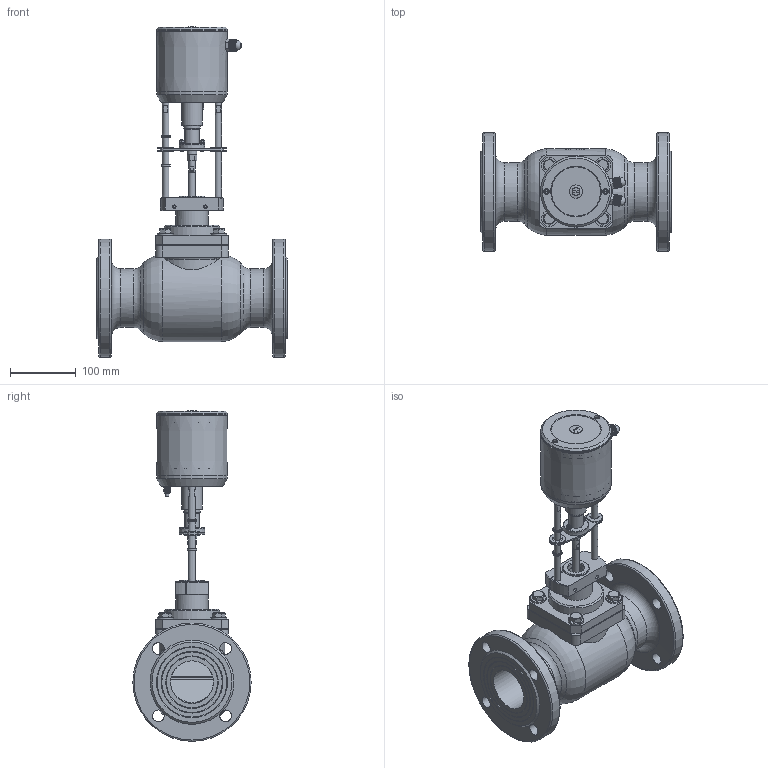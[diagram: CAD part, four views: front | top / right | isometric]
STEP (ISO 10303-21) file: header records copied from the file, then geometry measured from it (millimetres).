
FILE_DESCRIPTION(('STEP AP203'), '1');
FILE_NAME('ÊÏÑ-2 Äó 65 ñ ÝÏ-100-01', '', ('UNSPECIFIED'), ('UNSPECIFIED'), 'ASCON STEP Converter 1.3', 'ASCON Math Kernel', '');
FILE_SCHEMA(('CONFIG_CONTROL_DESIGN'));
Length unit declared in the file: millimetre
Bounding box: 290 x 180 x 503.42 mm (x, y, z)
Volume: 2728926.7 mm3; surface area: 590268.4 mm2
Topology: 20 solids, 24 shells, 2074 faces, 5462 edges, 3573 vertices
Faces by surface type: cylinder 982, plane 802, cone 194, bspline 44, torus 43, sphere 5, revolution 4
Full cylindrical faces by diameter (mm): 1.7 x2, 2 x2, 2.8 x2, 3.3 x2, 3.341 x3, 3.5 x4, 3.8 x2, 4 x6, 4.2 x2, 4.8 x2, 4.999 x6, 5 x14, 5.199 x3, 5.3 x3, 5.4 x3, 5.999 x3, 6 x6, 6.2 x2, 6.647 x2, 6.793 x2, 7 x4, 7.5 x1, 8 x3, 8.2 x2, 8.4 x2, 8.5 x2, 9.2 x4, 9.5 x1, 9.6 x1, 9.981 x1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
Entity records: 116546 total; most frequent: CARTESIAN_POINT 51023, ORIENTED_EDGE 10048, DIRECTION 9632, EDGE_CURVE 5024, AXIS2_PLACEMENT_3D 3806, VERTEX_POINT 3565, EDGE_LOOP 2739, FACE_BOUND 2094
